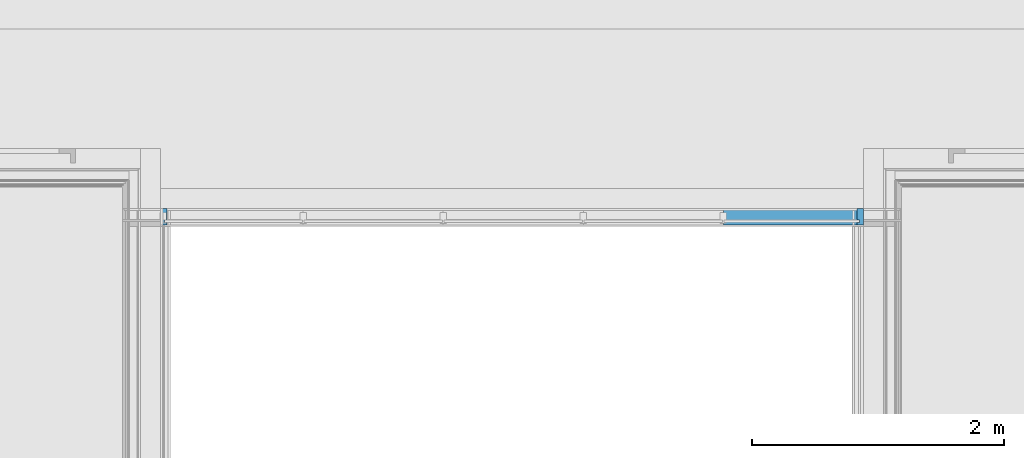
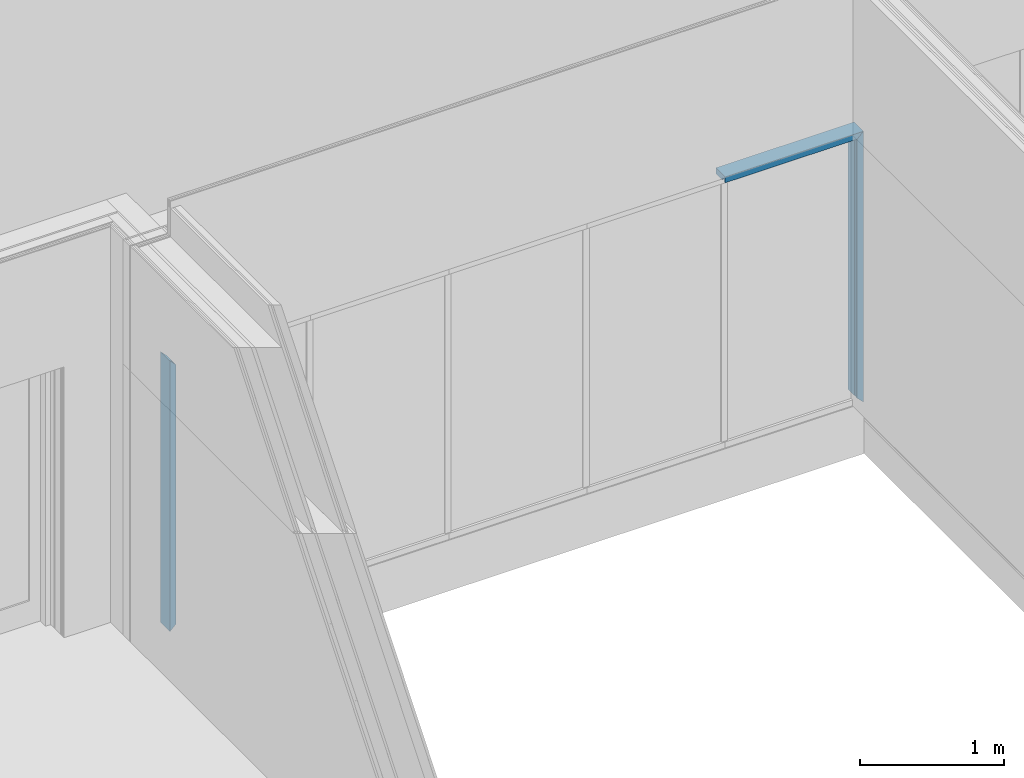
# One storey, part 37 of 139: 3 members, 1 element without a shape of its own.
"""IFC2X3 building model written with IfcOpenShell, lengths in millimetres."""

from ifc_helpers import new_model, entity, si_unit, converted_unit, derived_unit, money_unit, direction, frame, origin_with_axes, place, context, subcontext, project, spatial, faceted_brep, material, type_object, element, aggregate, save


model = new_model("IFC2X3")

# Units and contexts
model_context = context("Model", 3, precision=0.01, world=origin_with_axes(), true_north=direction((0.0, 1.0)))
body_context = subcontext(model_context, "Body", "Model", "MODEL_VIEW")
ifc_project = project(units=[si_unit("LENGTHUNIT", "METRE", prefix="MILLI"), si_unit("AREAUNIT", "SQUARE_METRE"), si_unit("VOLUMEUNIT", "CUBIC_METRE"), converted_unit("PLANEANGLEUNIT", "DEGREE", entity("IfcPlaneAngleMeasure", 0.0174532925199), si_unit("PLANEANGLEUNIT", "RADIAN"), dimensions=[0, 0, 0, 0, 0, 0, 0]), money_unit("EUR"), converted_unit("TIMEUNIT", "Year", entity("IfcTimeMeasure", 31556926.0), si_unit("TIMEUNIT", "SECOND"), dimensions=[0, 0, 1, 0, 0, 0, 0]), si_unit("MASSUNIT", "GRAM", prefix="KILO"), si_unit("THERMODYNAMICTEMPERATUREUNIT", "DEGREE_CELSIUS"), si_unit("LUMINOUSINTENSITYUNIT", "LUMEN"), si_unit("ENERGYUNIT", "JOULE", prefix="MEGA"), derived_unit("THERMALCONDUCTANCEUNIT", [(si_unit("POWERUNIT", "WATT"), 1), (si_unit("LENGTHUNIT", "METRE"), -1), (si_unit("THERMODYNAMICTEMPERATUREUNIT", "KELVIN"), -1)]), derived_unit("SPECIFICHEATCAPACITYUNIT", [(si_unit("ENERGYUNIT", "JOULE"), 1), (si_unit("MASSUNIT", "GRAM", prefix="KILO"), -1), (si_unit("THERMODYNAMICTEMPERATUREUNIT", "KELVIN"), -1)]), derived_unit("MASSDENSITYUNIT", [(si_unit("MASSUNIT", "GRAM", prefix="KILO"), 1), (si_unit("VOLUMEUNIT", "CUBIC_METRE"), -1)])], contexts=[model_context])

# Site, building, storey
site_placement = place(None, origin_with_axes())
site = spatial("IfcSite", under=ifc_project, at=site_placement, Name="Kolde pst 67a", CompositionType="ELEMENT")
building_placement = place(site_placement, origin_with_axes())
building = spatial("IfcBuilding", under=site, at=building_placement, Name="Riigigümnaasium", CompositionType="ELEMENT")
storey_placement = place(building_placement, frame((0.0, 0.0, 4600.0), z_axis=(0.0, 0.0, 1.0), x_axis=(1.0, 0.0, 0.0)))
storey = spatial("IfcBuildingStorey", under=building, at=storey_placement, Name="2. korrus", CompositionType="ELEMENT", Elevation=4600.0)

# Curtain wall, members
curtain_wall_type = type_object("IfcCurtainWallType", Name="Curtain Wall Type", PredefinedType="NOTDEFINED")
curtain_wall_placement = place(storey_placement, frame((15575.0032916, 55314.9743005, 0.0), z_axis=(0.0, 0.0, 1.0), x_axis=(1.0, 0.0, 0.0)))
curtain_wall = element("IfcCurtainWall", 1, at=curtain_wall_placement, inside=storey, type_object=curtain_wall_type, Name="KLAASSEIN")
ifc_material = material(Name="_METALL - alumiinium")
member_type = type_object("IfcMemberType", Name="Boundary Frame 50 x 130", PredefinedType="MEMBER")
member_1_placement = place(curtain_wall_placement, frame((2774.99999979, 0.0339510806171, 0.0), z_axis=(0.0, 0.0, 1.0), x_axis=(0.999999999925, 1.22346236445e-05, 0.0)))
member_1 = element("IfcMember", 2, at=member_1_placement, type_object=member_type, material=ifc_material, Name="RF RAAM SERV-029", ObjectType="MEMBER", context=body_context, shape_type="Brep", body=[
    faceted_brep([(-30.0, 9.99999999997, 2270.00008047), (-30.0, -10.0, 2270.00008047), (-50.0, -10.0, 2250.00008047), (-50.0, -30.0000000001, 2250.00008047), (0.0, -30.0, 2300.00008047), (-1.03028696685e-10, 100.0, 2300.00008047), (-50.0000000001, 100.0, 2250.00008047), (-50.0, 9.99999999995, 2250.00008047), (-30.0, 9.99999999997, 30.0), (-30.0, -10.0, 30.0), (-50.0, -10.0, 50.0), (-50.0, -30.0000000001, 50.0), (0.0, -30.0, 0.0), (-1.03028696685e-10, 100.0, 0.0), (-50.0000000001, 100.0, 50.0), (-50.0, 9.99999999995, 50.0)], [[[0, 1, 2, 3, 4, 5, 6, 7]], [[1, 0, 8, 9]], [[10, 2, 1, 9]], [[2, 10, 11, 3]], [[4, 3, 11, 12]], [[5, 4, 12, 13]], [[6, 5, 13, 14]], [[15, 7, 6, 14]], [[0, 7, 15, 8]], [[8, 15, 14, 13, 12, 11, 10, 9]]]),
])
member_2_placement = place(curtain_wall_placement, frame((2774.99999979, 0.0339510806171, 2300.00008047), z_axis=(-0.999999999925, -1.22346236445e-05, 0.0), x_axis=(0.0, 0.0, 1.0)))
member_2 = element("IfcMember", 3, at=member_2_placement, type_object=member_type, material=ifc_material, Name="RF RAAM SERV-042", ObjectType="MEMBER", context=body_context, shape_type="Brep", body=[
    faceted_brep([(-30.0, 10.0, 1110.0), (-30.0, -10.0, 1110.0), (-50.0, -10.0, 1110.0), (-50.0, -30.0, 1110.0), (0.0, -30.0, 1110.0), (0.0, 100.0, 1110.0), (-50.0, 100.0, 1110.0), (-50.0, 10.0, 1110.0), (-30.0, 10.0, 30.0), (-30.0, -10.0, 30.0), (-50.0, -10.0, 50.0), (-50.0, -30.0, 50.0), (0.0, -30.0, 0.0), (0.0, 100.0, 0.0), (-50.0, 100.0, 50.0), (-50.0, 10.0, 50.0)], [[[0, 1, 2, 3, 4, 5, 6, 7]], [[1, 0, 8, 9]], [[10, 2, 1, 9]], [[2, 10, 11, 3]], [[4, 3, 11, 12]], [[5, 4, 12, 13]], [[6, 5, 13, 14]], [[15, 7, 6, 14]], [[0, 7, 15, 8]], [[8, 15, 14, 13, 12, 11, 10, 9]]]),
])
member_3_placement = place(curtain_wall_placement, frame((-2795.00576297, -0.0341958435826, 0.0), z_axis=(0.0, 0.0, 1.0), x_axis=(0.999999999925, 1.22346236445e-05, 0.0)))
member_3 = element("IfcMember", 4, at=member_3_placement, type_object=member_type, material=ifc_material, Name="RF RAAM SERV-036", ObjectType="MEMBER", context=body_context, shape_type="Brep", body=[
    faceted_brep([(30.0, 10.0, 2270.00008047), (50.0, 10.0, 2250.00008047), (49.9999999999, 100.0, 2250.00008047), (-1.04805053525e-10, 100.0, 2300.00008047), (0.0, -30.0, 2300.00008047), (50.0, -29.9999999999, 2250.00008047), (50.0, -9.99999999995, 2250.00008047), (30.0, -9.99999999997, 2270.00008047), (30.0, 10.0, 30.0), (50.0, 10.0, 50.0), (49.9999999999, 100.0, 50.0), (-1.04805053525e-10, 100.0, 0.0), (0.0, -30.0, 0.0), (50.0, -29.9999999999, 50.0), (50.0, -9.99999999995, 50.0), (30.0, -9.99999999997, 30.0)], [[[0, 1, 2, 3, 4, 5, 6, 7]], [[0, 8, 9, 1]], [[9, 10, 2, 1]], [[2, 10, 11, 3]], [[3, 11, 12, 4]], [[4, 12, 13, 5]], [[6, 5, 13, 14]], [[14, 15, 7, 6]], [[7, 15, 8, 0]], [[8, 15, 14, 13, 12, 11, 10, 9]]]),
])
aggregate(curtain_wall, [member_1, member_2, member_3])

save(model, "model.ifc")
